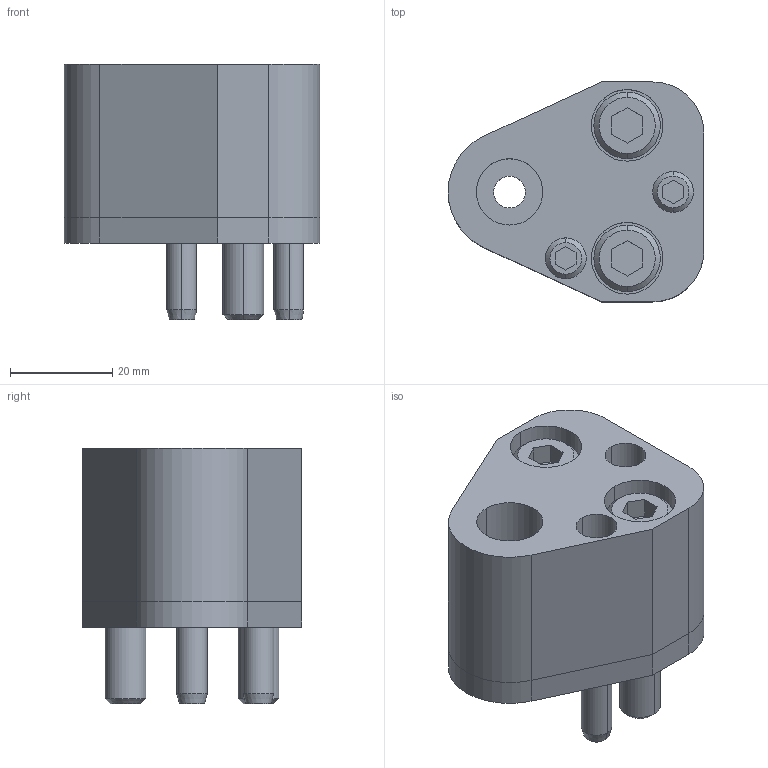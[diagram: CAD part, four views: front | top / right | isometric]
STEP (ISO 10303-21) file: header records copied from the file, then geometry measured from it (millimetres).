
FILE_DESCRIPTION(/* description */ (''),/* implementation_level */ '2;1');
FILE_NAME(/* name */ '3d_cp-ap13_02851_r00.stp',/* time_stamp */ '2011-01-10T14:16:30+09:00',/* author */ ('MISUMI'),/* organization */ (''),/* preprocessor_version */ 'ST-DEVELOPER v11',/* originating_system */ 'UGS - NX 5.0',/* authorisation */ '');
FILE_SCHEMA (('CONFIG_CONTROL_DESIGN'));
Length unit declared in the file: millimetre
Products named in the file (1): 3d_cp-ap13_02851_r00
Bounding box: 50 x 43 x 50 mm (x, y, z)
Volume: 52824.4 mm3; surface area: 21477.4 mm2
Topology: 8 solids, 8 shells, 152 faces, 340 edges, 218 vertices
Faces by surface type: plane 66, cylinder 60, cone 26
Entity records: 4397 total; most frequent: DIRECTION 788, CARTESIAN_POINT 762, ORIENTED_EDGE 680, EDGE_CURVE 340, AXIS2_PLACEMENT_3D 299, VERTEX_POINT 218, LINE 190, VECTOR 190
